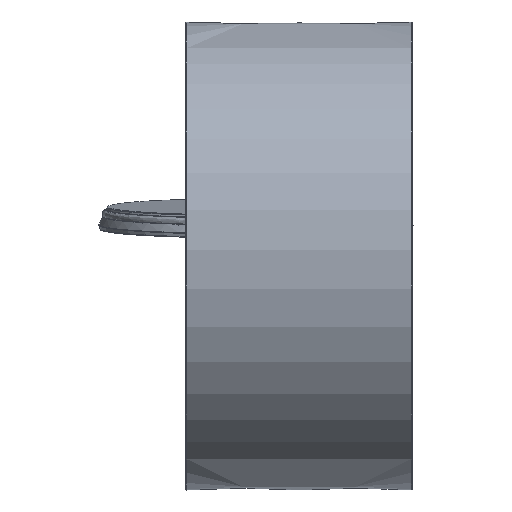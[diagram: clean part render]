
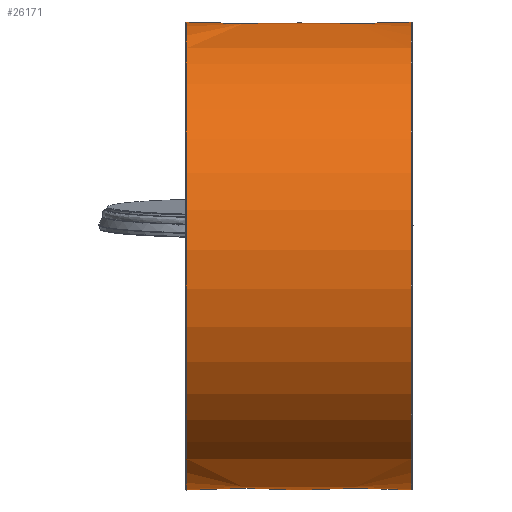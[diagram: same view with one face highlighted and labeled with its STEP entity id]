
A CAD part, left-side view. The second image highlights one B-rep face of the part: STEP entity #26171.
In plain terms, the highlighted free-form (B-spline) face has degree [2, 1] with [7, 2] control points.
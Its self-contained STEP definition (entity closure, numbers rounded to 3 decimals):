
#24916=CARTESIAN_POINT('V85',(144.5,
   150.,0.0));
#24917=VERTEX_POINT('V85',#24916);
#24941=CARTESIAN_POINT('E131',(144.5,
   150.,0.0));
#24942=CARTESIAN_POINT('E131',(144.5,
   150.,-259.808));
#24943=CARTESIAN_POINT('E131',(144.5,
   -75.,-129.904));
#24944=CARTESIAN_POINT('E131',(144.5,
   -300.,0.));
#24945=CARTESIAN_POINT('E131',(144.5,
   -75.,129.904));
#24946=CARTESIAN_POINT('E131',(144.5,
   150.,259.808));
#24947=CARTESIAN_POINT('E131',(144.5,
   150.,0.0));
#24955=(BOUNDED_CURVE()B_SPLINE_CURVE(2,(#24941,#24942,#24943,
   #24944,#24945,#24946,#24947),.CIRCULAR_ARC.,.T.,.U.)
   B_SPLINE_CURVE_WITH_KNOTS((3,2,2,3),(0.0,3.608,
   7.217,10.825),.UNSPECIFIED.)CURVE()
   GEOMETRIC_REPRESENTATION_ITEM()RATIONAL_B_SPLINE_CURVE((1.0,
   0.5,1.0,0.5,1.0,0.5,1.0)
   )REPRESENTATION_ITEM('E131'));
#24956=EDGE_CURVE('E131',#24917,#24917,#24955,.T.);
#25995=CARTESIAN_POINT('V89',(131.038,
   150.,0.));
#25996=VERTEX_POINT('V89',#25995);
#25997=CARTESIAN_POINT('V3',(131.038,132.5,
   70.312));
#25998=VERTEX_POINT('V3',#25997);
#25999=CARTESIAN_POINT('E139',(131.038,
   150.,0.));
#26000=CARTESIAN_POINT('E139',(131.038,
   150.,37.334));
#26001=CARTESIAN_POINT('E139',(131.038,
   132.5,70.312));
#26009=(BOUNDED_CURVE()B_SPLINE_CURVE(2,(#25999,#26000,#26001),
   .CIRCULAR_ARC.,.F.,.U.)CURVE()GEOMETRIC_REPRESENTATION_ITEM()
   QUASI_UNIFORM_CURVE()RATIONAL_B_SPLINE_CURVE((1.0,
   0.874,0.812))REPRESENTATION_ITEM('E139')
   );
#26010=EDGE_CURVE('E139',#25996,#25998,#26009,.T.);
#26012=CARTESIAN_POINT('V2',(131.038,132.5,
   -70.312));
#26013=VERTEX_POINT('V2',#26012);
#26019=CARTESIAN_POINT('E137',(131.038,
   132.5,-70.312));
#26020=CARTESIAN_POINT('E137',(131.038,150.0,
   -37.334));
#26021=CARTESIAN_POINT('E137',(131.038,
   150.,0.));
#26029=(BOUNDED_CURVE()B_SPLINE_CURVE(2,(#26019,#26020,#26021),
   .CIRCULAR_ARC.,.F.,.U.)CURVE()GEOMETRIC_REPRESENTATION_ITEM()
   QUASI_UNIFORM_CURVE()RATIONAL_B_SPLINE_CURVE((0.812,
   0.874,1.0))REPRESENTATION_ITEM('E137'));
#26030=EDGE_CURVE('E137',#26013,#25996,#26029,.T.);
#26040=CARTESIAN_POINT('V1',(68.962,132.5,
   -70.312));
#26041=VERTEX_POINT('V1',#26040);
#26042=CARTESIAN_POINT('E1',(68.963,132.5,
   -70.312));
#26043=CARTESIAN_POINT('E1',(131.037,132.5,
   -70.312));
#26044=QUASI_UNIFORM_CURVE('E1',1,(#26042,#26043),.POLYLINE_FORM.,
   .F.,.U.);
#26045=EDGE_CURVE('E1',#26041,#26013,#26044,.T.);
#26048=CARTESIAN_POINT('V4',(68.962,132.5,
   70.312));
#26049=VERTEX_POINT('V4',#26048);
#26050=CARTESIAN_POINT('E3',(131.037,132.5,
   70.312));
#26051=CARTESIAN_POINT('E3',(68.963,132.5,
   70.312));
#26052=QUASI_UNIFORM_CURVE('E3',1,(#26050,#26051),.POLYLINE_FORM.,
   .F.,.U.);
#26053=EDGE_CURVE('E3',#25998,#26049,#26052,.T.);
#26077=CARTESIAN_POINT('V88',(68.962,150.,
   0.));
#26078=VERTEX_POINT('V88',#26077);
#26079=CARTESIAN_POINT('E136',(68.962,
   150.,0.));
#26080=CARTESIAN_POINT('E136',(68.962,
   150.,-37.334));
#26081=CARTESIAN_POINT('E136',(68.962,
   132.5,-70.312));
#26089=(BOUNDED_CURVE()B_SPLINE_CURVE(2,(#26079,#26080,#26081),
   .CIRCULAR_ARC.,.F.,.U.)CURVE()GEOMETRIC_REPRESENTATION_ITEM()
   QUASI_UNIFORM_CURVE()RATIONAL_B_SPLINE_CURVE((1.0,
   0.874,0.812))REPRESENTATION_ITEM('E136')
   );
#26090=EDGE_CURVE('E136',#26078,#26041,#26089,.T.);
#26093=CARTESIAN_POINT('E140',(68.962,
   132.5,70.312));
#26094=CARTESIAN_POINT('E140',(68.962,150.0,
   37.334));
#26095=CARTESIAN_POINT('E140',(68.962,
   150.,0.));
#26103=(BOUNDED_CURVE()B_SPLINE_CURVE(2,(#26093,#26094,#26095),
   .CIRCULAR_ARC.,.F.,.U.)CURVE()GEOMETRIC_REPRESENTATION_ITEM()
   QUASI_UNIFORM_CURVE()RATIONAL_B_SPLINE_CURVE((0.812,
   0.874,1.0))REPRESENTATION_ITEM('E140'));
#26104=EDGE_CURVE('E140',#26049,#26078,#26103,.T.);
#26109=CARTESIAN_POINT('F67',(0.5,150.0,0.0));
#26110=CARTESIAN_POINT('F67',(0.5,150.0,
   259.808));
#26111=CARTESIAN_POINT('F67',(0.5,-75.,
   129.904));
#26112=CARTESIAN_POINT('F67',(0.5,-300.,
   0.));
#26113=CARTESIAN_POINT('F67',(0.5,-75.,
   -129.904));
#26114=CARTESIAN_POINT('F67',(0.5,150.,
   -259.808));
#26115=CARTESIAN_POINT('F67',(0.5,150.0,0.0));
#26116=CARTESIAN_POINT('F67',(144.5,
   150.,0.0));
#26117=CARTESIAN_POINT('F67',(144.5,
   150.,259.808));
#26118=CARTESIAN_POINT('F67',(144.5,
   -75.,129.904));
#26119=CARTESIAN_POINT('F67',(144.5,
   -300.,0.));
#26120=CARTESIAN_POINT('F67',(144.5,
   -75.,-129.904));
#26121=CARTESIAN_POINT('F67',(144.5,
   150.,-259.808));
#26122=CARTESIAN_POINT('F67',(144.5,
   150.,0.0));
#26130=(BOUNDED_SURFACE()B_SPLINE_SURFACE(2,1,((#26109,#26116),(
   #26110,#26117),(#26111,#26118),(#26112,#26119),(#26113,
   #26120),(#26114,#26121),(#26115,#26122)),.CYLINDRICAL_SURF.,
   .T.,.F.,.U.)B_SPLINE_SURFACE_WITH_KNOTS((3,2,2,3),(2,2),(0.0,
   3.608,7.217,10.825),(0.0,1.0),
   .UNSPECIFIED.)GEOMETRIC_REPRESENTATION_ITEM()
   RATIONAL_B_SPLINE_SURFACE(((1.0,1.0),(0.5,
   0.5),(1.0,1.0),(0.5,
   0.5),(1.0,1.0),(0.5,
   0.5),(1.0,1.0)))REPRESENTATION_ITEM('F67')SURFACE(
   ));
#26131=ORIENTED_EDGE('E136',*,*,#26090,.F.);
#26132=CARTESIAN_POINT('V86',(0.5,150.0,0.0));
#26133=VERTEX_POINT('V86',#26132);
#26134=CARTESIAN_POINT('E141',(68.962,
   150.,0.0));
#26135=CARTESIAN_POINT('E141',(0.5,150.0,0.0));
#26136=B_SPLINE_CURVE_WITH_KNOTS('E141',1,(#26134,#26135),
   .POLYLINE_FORM.,.F.,.U.,(2,2),(0.525,1.0),
   .UNSPECIFIED.);
#26137=EDGE_CURVE('E141',#26078,#26133,#26136,.T.);
#26138=ORIENTED_EDGE('E141',*,*,#26137,.T.);
#26139=CARTESIAN_POINT('E135',(0.5,150.0,0.0));
#26140=CARTESIAN_POINT('E135',(0.5,150.,
   -259.808));
#26141=CARTESIAN_POINT('E135',(0.5,-75.,
   -129.904));
#26142=CARTESIAN_POINT('E135',(0.5,
   -300.,0.));
#26143=CARTESIAN_POINT('E135',(0.5,-75.,
   129.904));
#26144=CARTESIAN_POINT('E135',(0.5,150.0,
   259.808));
#26145=CARTESIAN_POINT('E135',(0.5,150.0,0.0));
#26153=(BOUNDED_CURVE()B_SPLINE_CURVE(2,(#26139,#26140,#26141,
   #26142,#26143,#26144,#26145),.CIRCULAR_ARC.,.T.,.U.)
   B_SPLINE_CURVE_WITH_KNOTS((3,2,2,3),(0.0,733.622,
   1467.244,2200.867),.UNSPECIFIED.)CURVE()
   GEOMETRIC_REPRESENTATION_ITEM()RATIONAL_B_SPLINE_CURVE((1.0,
   0.5,1.0,0.5,1.0,0.5,1.0)
   )REPRESENTATION_ITEM('E135'));
#26154=EDGE_CURVE('E135',#26133,#26133,#26153,.T.);
#26155=ORIENTED_EDGE('E135',*,*,#26154,.T.);
#26156=ORIENTED_EDGE('E141',*,*,#26137,.F.);
#26157=ORIENTED_EDGE('F68',*,*,#26104,.F.);
#26158=ORIENTED_EDGE('E3',*,*,#26053,.F.);
#26159=ORIENTED_EDGE('E139',*,*,#26010,.F.);
#26160=CARTESIAN_POINT('E138',(144.5,
   150.,0.0));
#26161=CARTESIAN_POINT('E138',(131.038,
   150.,0.0));
#26162=B_SPLINE_CURVE_WITH_KNOTS('E138',1,(#26160,#26161),
   .POLYLINE_FORM.,.F.,.U.,(2,2),(0.0,0.093),
   .UNSPECIFIED.);
#26163=EDGE_CURVE('E138',#24917,#25996,#26162,.T.);
#26164=ORIENTED_EDGE('E138',*,*,#26163,.F.);
#26165=ORIENTED_EDGE('F65',*,*,#24956,.F.);
#26166=ORIENTED_EDGE('E138',*,*,#26163,.T.);
#26167=ORIENTED_EDGE('F69',*,*,#26030,.F.);
#26168=ORIENTED_EDGE('E1',*,*,#26045,.F.);
#26169=EDGE_LOOP('F67',(#26131,#26138,#26155,#26156,#26157,#26158,
   #26159,#26164,#26165,#26166,#26167,#26168));
#26170=FACE_OUTER_BOUND('F67',#26169,.F.);
#26171=ADVANCED_FACE('F67',(#26170),#26130,.T.);
